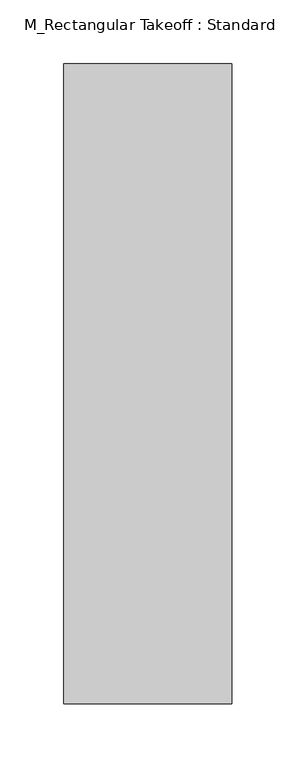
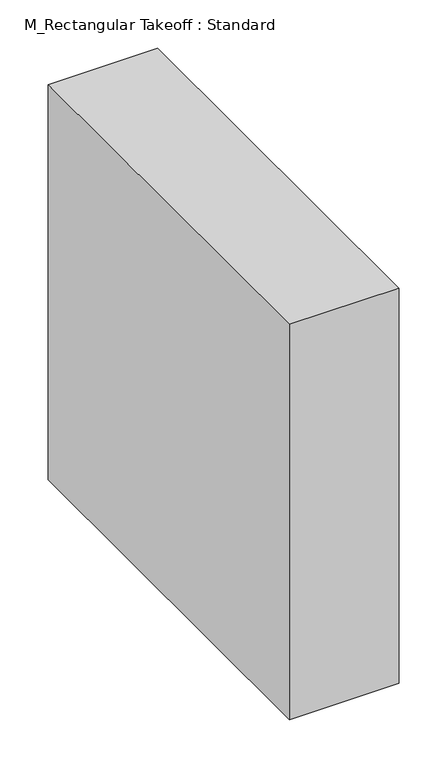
"""IFC4 building model written with IfcOpenShell, lengths in millimetres: duct fitting geometry, M_Rectangular Takeoff : Standard."""

from ifc_helpers import new_model, si_unit, frame, origin, place, context, project, spatial, polyline, outline, extrude, source, transform, mapped, element, save


def m_rectangular_takeoff_standard_f0cccdbc(model_context):
    return source(origin(), model_context, "Body", "SweptSolid", [
        extrude(outline(polyline([(-6.096, 250.0), (125.0, 250.0), (125.0, -250.0), (-6.096, -250.0), (-6.096, 250.0)])), frame((0.0, 0.0, -250.0), z_axis=(0.0, 0.0, 1.0), x_axis=(1.0, 0.0, 0.0)), (0.0, 0.0, 1.0), 500.0),
        extrude(outline(polyline([(-6.096, 250.0), (125.0, 250.0), (125.0, -250.0), (-6.096, -250.0), (-6.096, 250.0)])), frame((0.0, 0.0, -250.0), z_axis=(0.0, 0.0, 1.0), x_axis=(1.0, 0.0, 0.0)), (0.0, 0.0, 1.0), 500.0),
        extrude(outline(polyline([(-6.096, 250.0), (125.0, 250.0), (125.0, -250.0), (-6.096, -250.0), (-6.096, 250.0)])), frame((0.0, 0.0, -250.0), z_axis=(0.0, 0.0, 1.0), x_axis=(1.0, 0.0, 0.0)), (0.0, 0.0, 1.0), 500.0),
    ])


if __name__ == "__main__":
    model = new_model("IFC4")
    model_context = context("Model", 3, world=origin())
    ifc_project = project(units=[si_unit("LENGTHUNIT", "METRE", prefix="MILLI")], contexts=[model_context])
    site = spatial("IfcSite", under=ifc_project)
    building = spatial("IfcBuilding", under=site)
    placement = place(None, origin())
    m_rectangular_takeoff_standard_shape = m_rectangular_takeoff_standard_f0cccdbc(model_context)
    element("IfcDuctFitting", 1, ObjectType="M_Rectangular Takeoff : Standard", at=placement, inside=building, context=model_context, shape_type="MappedRepresentation", body=[
        mapped(m_rectangular_takeoff_standard_shape, transform((0.0, 0.0, 0.0), x_axis=(1.0, 0.0, 0.0), y_axis=(0.0, 1.0, 0.0), z_axis=(0.0, 0.0, 1.0))),
    ])
    save(model, "model.ifc")
